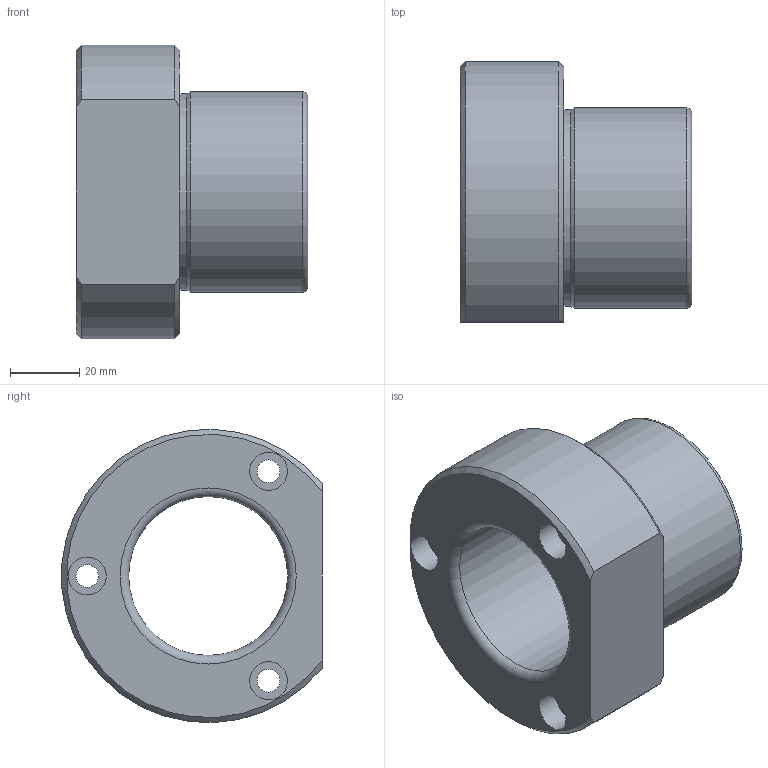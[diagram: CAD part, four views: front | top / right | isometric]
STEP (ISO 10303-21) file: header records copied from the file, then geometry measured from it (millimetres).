
FILE_DESCRIPTION(/* description */ ('Impex Ready, www.impex-ready.pl'),/* implementation_level */ '2;1');
FILE_NAME(/* name */ 'C:\Users\VIKKY\Nextcloud\SM\projekt 10 - części na stronę internetową\Pliki_3D_new\283 Tuleje B5AG\283 B5AG_STEP\B5AG38-5.ipt.step',/* time_stamp */ '2021-12-20T14:10:25+01:00',/* author */ ('SM'),/* organization */ (''),/* preprocessor_version */ 'ST-DEVELOPER v18.1',/* originating_system */ 'Autodesk Inventor 2021',/* authorisation */ '');
FILE_SCHEMA (('AUTOMOTIVE_DESIGN { 1 0 10303 214 3 1 1 }'));
Length unit declared in the file: millimetre
Products named in the file (1): B5AG38-5
Bounding box: 67 x 75.35 x 84.93 mm (x, y, z)
Volume: 140846.1 mm3; surface area: 32940.7 mm2
Topology: 1 solids, 1 shells, 23 faces, 49 edges, 32 vertices
Faces by surface type: cylinder 10, plane 7, torus 3, cone 3
Full cylindrical faces by diameter (mm): 6.6 x3, 11 x3, 46 x1, 57 x1, 58 x1
Entity records: 732 total; most frequent: DIRECTION 124, CARTESIAN_POINT 113, ORIENTED_EDGE 98, AXIS2_PLACEMENT_3D 55, EDGE_CURVE 49, EDGE_LOOP 35, VERTEX_POINT 32, CIRCLE 31
